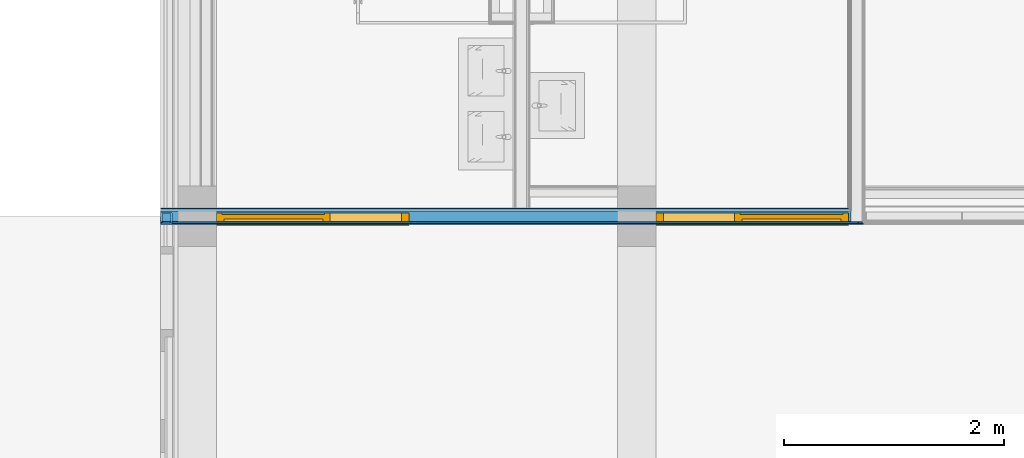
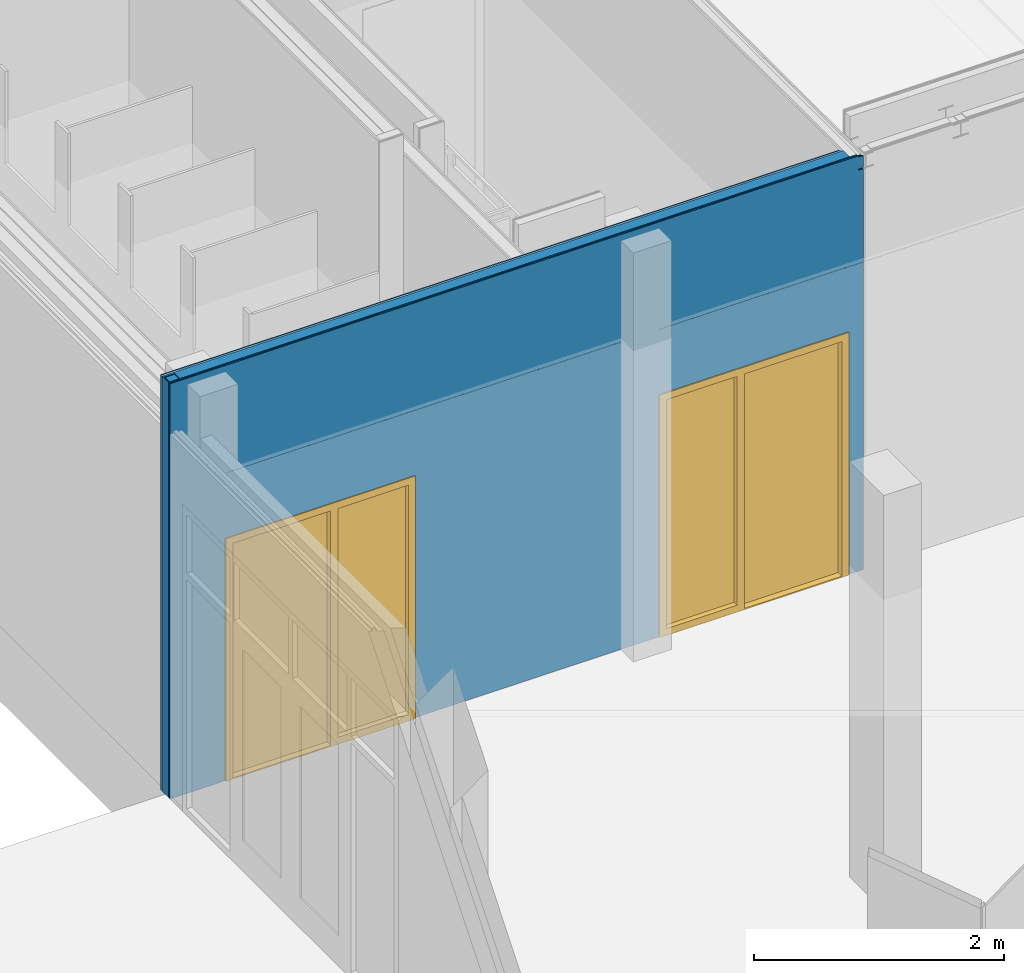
# One storey, part 39 of 54: 4 building element parts, 2 doors, 2 openings, 1 element without a shape of its own, plus 1 element that does not belong to this part.
"""IFC2X3 building model written with IfcOpenShell, lengths in millimetres."""

from ifc_helpers import new_model, entity, si_unit, converted_unit, derived_unit, money_unit, direction, frame, origin_with_axes, place, context, subcontext, project, spatial, open_shell, faceted_brep, surface_model, material, type_object, element, fill, aggregate, save


model = new_model("IFC2X3")

# Units and contexts
model_context = context("Model", 3, precision=0.01, world=origin_with_axes(), true_north=direction((0.0, 1.0)))
body_context = subcontext(model_context, "Body", "Model", "MODEL_VIEW")
ifc_project = project(units=[si_unit("LENGTHUNIT", "METRE", prefix="MILLI"), si_unit("AREAUNIT", "SQUARE_METRE"), si_unit("VOLUMEUNIT", "CUBIC_METRE"), converted_unit("PLANEANGLEUNIT", "DEGREE", entity("IfcPlaneAngleMeasure", 0.0174532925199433), si_unit("PLANEANGLEUNIT", "RADIAN"), dimensions=[0, 0, 0, 0, 0, 0, 0]), money_unit("EUR"), converted_unit("TIMEUNIT", "Year", entity("IfcTimeMeasure", 31557600.0), si_unit("TIMEUNIT", "SECOND"), dimensions=[0, 0, 1, 0, 0, 0, 0]), si_unit("MASSUNIT", "GRAM", prefix="KILO"), si_unit("THERMODYNAMICTEMPERATUREUNIT", "DEGREE_CELSIUS"), si_unit("LUMINOUSINTENSITYUNIT", "LUMEN"), si_unit("ENERGYUNIT", "JOULE", prefix="MEGA"), derived_unit("THERMALCONDUCTANCEUNIT", [(si_unit("POWERUNIT", "WATT"), 1), (si_unit("LENGTHUNIT", "METRE"), -1), (si_unit("THERMODYNAMICTEMPERATUREUNIT", "KELVIN"), -1)]), derived_unit("SPECIFICHEATCAPACITYUNIT", [(si_unit("ENERGYUNIT", "JOULE"), 1), (si_unit("MASSUNIT", "GRAM", prefix="KILO"), -1), (si_unit("THERMODYNAMICTEMPERATUREUNIT", "KELVIN"), -1)]), derived_unit("MASSDENSITYUNIT", [(si_unit("MASSUNIT", "GRAM", prefix="KILO"), 1), (si_unit("VOLUMEUNIT", "CUBIC_METRE"), -1)])], contexts=[model_context])

# Site, building, storey
site_placement = place(None, origin_with_axes())
site = spatial("IfcSite", under=ifc_project, at=site_placement, Name="<site naam>", CompositionType="ELEMENT")
building_placement = place(site_placement, origin_with_axes())
building = spatial("IfcBuilding", under=site, at=building_placement, Name="<Naam gebouw>", CompositionType="ELEMENT")
storey_placement = place(building_placement, frame((0.0, 0.0, 8500.0), z_axis=(0.0, 0.0, 1.0), x_axis=(1.0, 0.0, 0.0)))
storey = spatial("IfcBuildingStorey", under=building, at=storey_placement, Name="02 2e verdieping", CompositionType="ELEMENT", Elevation=8500.0)

# Door
door_style_1 = type_object("IfcDoorStyle", Name="D1 zl1-b 27", ConstructionType="NOTDEFINED", OperationType="SINGLE_SWING_RIGHT", ParameterTakesPrecedence=False, Sizeable=False)
wall_placement = place(storey_placement, frame((11665.00000000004, 12000.00000000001, 0.0), z_axis=(0.0, 0.0, 1.0), x_axis=(1.0, 0.0, 0.0)))
opening_1_placement = place(wall_placement, frame((5384.999999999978, 0.0, 0.0), z_axis=(0.0, 0.0, 1.0), x_axis=(1.0, 0.0, 0.0)))
door_1_placement = place(opening_1_placement, frame((-875.0, 0.0, 0.0), z_axis=(0.0, 0.0, 1.0), x_axis=(1.0, 0.0, 0.0)))
door_1 = element("IfcDoor", 1, at=door_1_placement, inside=storey, type_object=door_style_1, Name="22_BI-C-01 sp_305", ObjectType="DOOR", OverallHeight=2367.0, OverallWidth=1750.0, context=body_context, shape_type="SurfaceModel", body=[
    faceted_brep([(766.0000000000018, -10.99999999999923, 12.00000000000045), (783.0000000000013, -10.99999999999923, 12.00000000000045), (783.0000000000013, -85.00000000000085, 12.00000000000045), (1683.0, -85.00000000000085, 12.00000000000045), (1683.0, -10.99999999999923, 12.00000000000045), (1699.999999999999, -10.99999999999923, 12.00000000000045), (1699.999999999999, 28.99999999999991, 12.00000000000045), (766.0000000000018, 28.99999999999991, 12.00000000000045), (766.0000000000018, -10.99999999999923, 0.0), (783.0000000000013, -10.99999999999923, 0.0), (783.0000000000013, -85.00000000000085, 0.0), (1683.0, -85.00000000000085, 0.0), (1683.0, -10.99999999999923, 0.0), (1699.999999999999, -10.99999999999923, 0.0), (1699.999999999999, 28.99999999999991, 0.0), (766.0000000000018, 28.99999999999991, 0.0)], [[[0, 1, 2, 3, 4, 5, 6, 7]], [[1, 0, 8, 9]], [[10, 2, 1, 9]], [[2, 10, 11, 3]], [[3, 11, 12, 4]], [[5, 4, 12, 13]], [[13, 14, 6, 5]], [[15, 7, 6, 14]], [[8, 0, 7, 15]], [[9, 8, 15, 14, 13, 12, 11, 10]]]),
    faceted_brep([(0.0, 28.99999999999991, 0.0), (67.00000000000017, 28.99999999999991, 0.0), (67.00000000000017, -85.00000000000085, 0.0), (0.0, -85.00000000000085, 0.0), (0.0, 28.99999999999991, 2300.000000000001), (67.00000000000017, 28.99999999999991, 2300.000000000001), (67.00000000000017, 28.99999999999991, 67.00000000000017), (67.00000000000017, -85.00000000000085, 67.00000000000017), (67.00000000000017, -84.99999999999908, 2300.000000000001), (0.0, -84.99999999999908, 2300.000000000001)], [[[0, 1, 2, 3]], [[0, 4, 5, 6, 1]], [[1, 6, 7, 2]], [[3, 2, 7, 8, 9]], [[4, 0, 3, 9]], [[5, 4, 9, 8]], [[6, 5, 8, 7]]]),
    faceted_brep([(783.0000000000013, -25.9999999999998, 0.0), (783.0000000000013, -25.9999999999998, 2300.000000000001), (783.0000000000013, -84.99999999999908, 2300.000000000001), (783.0000000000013, -85.00000000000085, 0.0), (766.0000000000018, -25.9999999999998, 2300.000000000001), (766.0000000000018, -25.9999999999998, 0.0), (766.0000000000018, 28.99999999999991, 2300.000000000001), (716.0000000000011, 28.99999999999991, 2300.000000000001), (716.0000000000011, -84.99999999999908, 2300.000000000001), (716.0000000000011, -85.00000000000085, 0.0), (716.0000000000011, -85.00000000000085, 67.00000000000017), (716.0000000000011, 28.99999999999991, 0.0), (766.0000000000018, 28.99999999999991, 0.0), (716.0000000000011, 28.99999999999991, 67.00000000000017)], [[[0, 1, 2, 3]], [[4, 1, 0, 5]], [[4, 6, 7, 8, 2, 1]], [[9, 3, 2, 8, 10]], [[5, 0, 3, 9, 11, 12]], [[6, 4, 5, 12]], [[6, 12, 11, 13, 7]], [[13, 10, 8, 7]], [[11, 9, 10, 13]]]),
    faceted_brep([(67.00000000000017, 28.99999999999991, 67.00000000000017), (67.00000000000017, 28.99999999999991, 0.0), (67.00000000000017, -85.00000000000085, 0.0), (67.00000000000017, -85.00000000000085, 67.00000000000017), (716.0000000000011, 28.99999999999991, 67.00000000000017), (716.0000000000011, 28.99999999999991, 0.0), (716.0000000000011, -85.00000000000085, 0.0), (716.0000000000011, -85.00000000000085, 67.00000000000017)], [[[0, 1, 2, 3]], [[0, 4, 5, 1]], [[1, 5, 6, 2]], [[3, 2, 6, 7]], [[4, 0, 3, 7]], [[5, 4, 7, 6]]]),
    faceted_brep([(1699.999999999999, -25.9999999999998, 2300.000000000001), (1683.0, -25.9999999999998, 2300.000000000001), (1683.0, -84.99999999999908, 2300.000000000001), (1750.0, -84.99999999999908, 2300.000000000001), (1750.0, 28.99999999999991, 2300.000000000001), (1699.999999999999, 28.99999999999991, 2300.000000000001), (1699.999999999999, -25.9999999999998, 0.0), (1683.0, -25.9999999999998, 0.0), (1683.0, -85.00000000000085, 0.0), (1750.0, -85.00000000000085, 0.0), (1750.0, 28.99999999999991, 0.0), (1699.999999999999, 28.99999999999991, 0.0)], [[[0, 1, 2, 3, 4, 5]], [[1, 0, 6, 7]], [[1, 7, 8, 2]], [[3, 2, 8, 9]], [[4, 3, 9, 10]], [[11, 5, 4, 10]], [[0, 5, 11, 6]], [[6, 11, 10, 9, 8, 7]]]),
    faceted_brep([(766.0000000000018, 28.99999999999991, 2317.0), (766.0000000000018, 28.99999999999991, 2300.000000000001), (716.0000000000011, 28.99999999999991, 2300.000000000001), (67.00000000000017, 28.99999999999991, 2300.000000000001), (0.0, 28.99999999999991, 2300.000000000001), (0.0, 28.99999999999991, 2367.000000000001), (1750.0, 28.99999999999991, 2367.000000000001), (1750.0, 28.99999999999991, 2300.000000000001), (1699.999999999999, 28.99999999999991, 2300.000000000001), (1699.999999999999, 28.99999999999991, 2317.0), (766.0000000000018, -25.9999999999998, 2317.0), (766.0000000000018, -25.9999999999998, 2300.000000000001), (1683.0, -25.9999999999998, 2300.000000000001), (1683.0, -84.99999999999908, 2300.000000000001), (783.0000000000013, -84.99999999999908, 2300.000000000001), (716.0000000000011, -84.99999999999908, 2300.000000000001), (67.00000000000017, -84.99999999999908, 2300.000000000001), (0.0, -84.99999999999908, 2300.000000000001), (0.0, -84.99999999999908, 2367.000000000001), (1750.0, -84.99999999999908, 2367.000000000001), (1750.0, -84.99999999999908, 2300.000000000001), (1699.999999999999, -25.9999999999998, 2300.000000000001), (1699.999999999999, -25.9999999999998, 2317.0)], [[[0, 1, 2, 3, 4, 5, 6, 7, 8, 9]], [[1, 0, 10, 11]], [[11, 12, 13, 14, 15, 2, 1]], [[2, 15, 16, 3]], [[3, 16, 17, 4]], [[4, 17, 18, 5]], [[5, 18, 19, 6]], [[6, 19, 20, 7]], [[21, 8, 7, 20, 13, 12]], [[9, 8, 21, 22]], [[0, 9, 22, 10]], [[21, 12, 11, 10, 22]], [[13, 20, 19, 18, 17, 16, 15, 14]]]),
    faceted_brep([(1699.999999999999, 13.99999999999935, 12.00000000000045), (1699.999999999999, -25.9999999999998, 12.00000000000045), (766.0000000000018, -25.9999999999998, 12.00000000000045), (766.0000000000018, 13.99999999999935, 12.00000000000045), (1699.999999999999, 13.99999999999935, 2317.0), (1699.999999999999, -25.9999999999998, 2317.0), (766.0000000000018, -25.9999999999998, 2317.0), (766.0000000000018, 13.99999999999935, 2317.0)], [[[0, 1, 2, 3]], [[4, 5, 1, 0]], [[1, 5, 6, 2]], [[3, 2, 6, 7]], [[0, 3, 7, 4]], [[7, 6, 5, 4]]]),
    surface_model("IfcShellBasedSurfaceModel", [(67.00000000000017, -25.00000000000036, 67.00000000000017), (67.00000000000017, -25.00000000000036, 2300.000000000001), (716.0000000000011, -25.00000000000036, 2300.000000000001), (716.0000000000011, -25.00000000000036, 67.00000000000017)], [open_shell([[[0, 1, 2, 3]]])]),
    surface_model("IfcShellBasedSurfaceModel", [(67.00000000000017, -37.00000000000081, 67.00000000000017), (716.0000000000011, -37.00000000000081, 67.00000000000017), (716.0000000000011, -37.00000000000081, 2300.000000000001), (67.00000000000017, -37.00000000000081, 2300.000000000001)], [open_shell([[[0, 1, 2, 3]]])]),
])

door_style_2 = type_object("IfcDoorStyle", Name="D1 zl1-b 27", ConstructionType="NOTDEFINED", OperationType="SINGLE_SWING_LEFT", ParameterTakesPrecedence=False, Sizeable=False)
opening_2_placement = place(wall_placement, frame((1385.000000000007, 0.0, 0.0), z_axis=(0.0, 0.0, 1.0), x_axis=(1.0, 0.0, 0.0)))
door_2_placement = place(opening_2_placement, frame((-875.0, 0.0, 0.0), z_axis=(0.0, 0.0, 1.0), x_axis=(1.0, 0.0, 0.0)))
door_2 = element("IfcDoor", 2, at=door_2_placement, inside=storey, type_object=door_style_2, Name="22_BI-C-01_305", ObjectType="DOOR", OverallHeight=2367.0, OverallWidth=1750.0, context=body_context, shape_type="SurfaceModel", body=[
    faceted_brep([(984.0, -10.99999999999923, 12.00000000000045), (984.0, 28.99999999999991, 12.00000000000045), (50.00000000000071, 28.99999999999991, 12.00000000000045), (50.00000000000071, -10.99999999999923, 12.00000000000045), (67.00000000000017, -10.99999999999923, 12.00000000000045), (67.00000000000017, -85.00000000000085, 12.00000000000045), (967.0000000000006, -85.00000000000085, 12.00000000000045), (967.0000000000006, -10.99999999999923, 12.00000000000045), (984.0, -10.99999999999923, 0.0), (984.0, 28.99999999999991, 0.0), (50.00000000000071, 28.99999999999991, 0.0), (50.00000000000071, -10.99999999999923, 0.0), (67.00000000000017, -10.99999999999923, 0.0), (67.00000000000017, -85.00000000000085, 0.0), (967.0000000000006, -85.00000000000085, 0.0), (967.0000000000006, -10.99999999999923, 0.0)], [[[0, 1, 2, 3, 4, 5, 6, 7]], [[8, 9, 1, 0]], [[9, 10, 2, 1]], [[11, 3, 2, 10]], [[3, 11, 12, 4]], [[5, 4, 12, 13]], [[6, 5, 13, 14]], [[14, 15, 7, 6]], [[7, 15, 8, 0]], [[15, 14, 13, 12, 11, 10, 9, 8]]]),
    faceted_brep([(1750.0, 28.99999999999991, 0.0), (1750.0, -85.00000000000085, 0.0), (1683.0, -85.00000000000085, 0.0), (1683.0, 28.99999999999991, 0.0), (1750.0, 28.99999999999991, 2300.000000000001), (1750.0, -84.99999999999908, 2300.000000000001), (1683.0, -84.99999999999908, 2300.000000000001), (1683.0, -85.00000000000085, 67.00000000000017), (1683.0, 28.99999999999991, 67.00000000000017), (1683.0, 28.99999999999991, 2300.000000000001)], [[[0, 1, 2, 3]], [[4, 5, 1, 0]], [[1, 5, 6, 7, 2]], [[3, 2, 7, 8]], [[0, 3, 8, 9, 4]], [[9, 6, 5, 4]], [[8, 7, 6, 9]]]),
    faceted_brep([(967.0000000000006, -25.9999999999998, 0.0), (967.0000000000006, -85.00000000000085, 0.0), (967.0000000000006, -84.99999999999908, 2300.000000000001), (967.0000000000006, -25.9999999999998, 2300.000000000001), (984.0, -25.9999999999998, 0.0), (984.0, 28.99999999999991, 0.0), (1034.000000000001, 28.99999999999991, 0.0), (1034.000000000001, -85.00000000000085, 0.0), (1034.000000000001, -85.00000000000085, 67.00000000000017), (1034.000000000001, -84.99999999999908, 2300.000000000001), (984.0, -25.9999999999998, 2300.000000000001), (1034.000000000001, 28.99999999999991, 2300.000000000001), (984.0, 28.99999999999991, 2300.000000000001), (1034.000000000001, 28.99999999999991, 67.00000000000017)], [[[0, 1, 2, 3]], [[4, 5, 6, 7, 1, 0]], [[7, 8, 9, 2, 1]], [[10, 3, 2, 9, 11, 12]], [[10, 4, 0, 3]], [[12, 5, 4, 10]], [[12, 11, 13, 6, 5]], [[6, 13, 8, 7]], [[13, 11, 9, 8]]]),
    faceted_brep([(1683.0, 28.99999999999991, 67.00000000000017), (1683.0, -85.00000000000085, 67.00000000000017), (1683.0, -85.00000000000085, 0.0), (1683.0, 28.99999999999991, 0.0), (1034.000000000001, 28.99999999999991, 67.00000000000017), (1034.000000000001, -85.00000000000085, 67.00000000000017), (1034.000000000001, -85.00000000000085, 0.0), (1034.000000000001, 28.99999999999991, 0.0)], [[[0, 1, 2, 3]], [[4, 5, 1, 0]], [[1, 5, 6, 2]], [[3, 2, 6, 7]], [[0, 3, 7, 4]], [[7, 6, 5, 4]]]),
    faceted_brep([(50.00000000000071, -25.9999999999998, 2300.000000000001), (50.00000000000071, 28.99999999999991, 2300.000000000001), (0.0, 28.99999999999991, 2300.000000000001), (0.0, -84.99999999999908, 2300.000000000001), (67.00000000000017, -84.99999999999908, 2300.000000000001), (67.00000000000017, -25.9999999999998, 2300.000000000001), (50.00000000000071, -25.9999999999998, 0.0), (50.00000000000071, 28.99999999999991, 0.0), (0.0, 28.99999999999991, 0.0), (0.0, -85.00000000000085, 0.0), (67.00000000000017, -85.00000000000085, 0.0), (67.00000000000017, -25.9999999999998, 0.0)], [[[0, 1, 2, 3, 4, 5]], [[0, 6, 7, 1]], [[7, 8, 2, 1]], [[2, 8, 9, 3]], [[3, 9, 10, 4]], [[5, 4, 10, 11]], [[5, 11, 6, 0]], [[6, 11, 10, 9, 8, 7]]]),
    faceted_brep([(984.0, 28.99999999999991, 2317.0), (50.00000000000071, 28.99999999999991, 2317.0), (50.00000000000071, 28.99999999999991, 2300.000000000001), (0.0, 28.99999999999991, 2300.000000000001), (0.0, 28.99999999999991, 2367.000000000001), (1750.0, 28.99999999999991, 2367.000000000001), (1750.0, 28.99999999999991, 2300.000000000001), (1683.0, 28.99999999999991, 2300.000000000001), (1034.000000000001, 28.99999999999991, 2300.000000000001), (984.0, 28.99999999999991, 2300.000000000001), (984.0, -25.9999999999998, 2317.0), (50.00000000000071, -25.9999999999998, 2317.0), (50.00000000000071, -25.9999999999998, 2300.000000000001), (67.00000000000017, -25.9999999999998, 2300.000000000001), (67.00000000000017, -84.99999999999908, 2300.000000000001), (0.0, -84.99999999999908, 2300.000000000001), (0.0, -84.99999999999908, 2367.000000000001), (1750.0, -84.99999999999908, 2367.000000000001), (1750.0, -84.99999999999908, 2300.000000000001), (1683.0, -84.99999999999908, 2300.000000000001), (1034.000000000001, -84.99999999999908, 2300.000000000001), (984.0, -25.9999999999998, 2300.000000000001), (967.0000000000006, -84.99999999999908, 2300.000000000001)], [[[0, 1, 2, 3, 4, 5, 6, 7, 8, 9]], [[0, 10, 11, 1]], [[1, 11, 12, 2]], [[12, 13, 14, 15, 3, 2]], [[4, 3, 15, 16]], [[5, 4, 16, 17]], [[6, 5, 17, 18]], [[7, 6, 18, 19]], [[8, 7, 19, 20]], [[21, 9, 8, 20, 22, 14, 13]], [[9, 21, 10, 0]], [[12, 11, 10, 21, 13]], [[14, 22, 20, 19, 18, 17, 16, 15]]]),
    faceted_brep([(50.00000000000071, 13.99999999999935, 12.00000000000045), (984.0, 13.99999999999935, 12.00000000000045), (984.0, -25.9999999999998, 12.00000000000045), (50.00000000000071, -25.9999999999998, 12.00000000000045), (50.00000000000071, 13.99999999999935, 2317.0), (984.0, 13.99999999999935, 2317.0), (984.0, -25.9999999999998, 2317.0), (50.00000000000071, -25.9999999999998, 2317.0)], [[[0, 1, 2, 3]], [[0, 4, 5, 1]], [[1, 5, 6, 2]], [[3, 2, 6, 7]], [[4, 0, 3, 7]], [[5, 4, 7, 6]]]),
    surface_model("IfcShellBasedSurfaceModel", [(1683.0, -25.00000000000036, 67.00000000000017), (1033.999999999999, -25.00000000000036, 67.00000000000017), (1033.999999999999, -25.00000000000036, 2300.000000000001), (1683.0, -25.00000000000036, 2300.000000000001)], [open_shell([[[0, 1, 2, 3]]])]),
    surface_model("IfcShellBasedSurfaceModel", [(1683.0, -37.00000000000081, 67.00000000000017), (1683.0, -37.00000000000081, 2300.000000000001), (1033.999999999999, -37.00000000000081, 2300.000000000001), (1033.999999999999, -37.00000000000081, 67.00000000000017)], [open_shell([[[0, 1, 2, 3]]])]),
])

# Wall, opening
wall_type = type_object("IfcWallType", Name="MS-01 GF 150 ECO DGS/2.100.2.A 150", PredefinedType="NOTDEFINED")
wall = element("IfcWall", 3, at=wall_placement, inside=storey, type_object=wall_type, Name="22_Binnenwand_MS-01")
opening_1 = element("IfcOpeningElement", 4, at=opening_1_placement, cuts=wall, Name="22_BI-C-01 sp_305", context=body_context, shape_type="Brep", body=[
    faceted_brep([(875.0, 75.99999999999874, 2367.000000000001), (875.0, 75.99999999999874, 0.0), (-875.0, 75.99999999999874, 0.0), (-875.0, 75.99999999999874, 2367.000000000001), (875.0, -75.99999999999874, 2367.000000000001), (875.0, -75.99999999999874, 0.0), (-875.0, -75.99999999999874, 0.0), (-875.0, -75.99999999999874, 2367.000000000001)], [[[0, 1, 2, 3]], [[4, 5, 1, 0]], [[5, 6, 2, 1]], [[6, 7, 3, 2]], [[7, 4, 0, 3]], [[6, 5, 4, 7]]]),
])

fill(opening_1, door_1)

# Opening
opening_2 = element("IfcOpeningElement", 5, at=opening_2_placement, cuts=wall, Name="22_BI-C-01_305", context=body_context, shape_type="Brep", body=[
    faceted_brep([(875.0, 75.99999999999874, 2367.000000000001), (875.0, 75.99999999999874, 0.0), (-875.0, 75.99999999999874, 0.0), (-875.0, 75.99999999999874, 2367.000000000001), (875.0, -75.99999999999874, 2367.000000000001), (875.0, -75.99999999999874, 0.0), (-875.0, -75.99999999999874, 0.0), (-875.0, -75.99999999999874, 2367.000000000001)], [[[0, 1, 2, 3]], [[4, 5, 1, 0]], [[5, 6, 2, 1]], [[6, 7, 3, 2]], [[7, 4, 0, 3]], [[6, 5, 4, 7]]]),
])

fill(opening_2, door_2)

# Building element part
ifc_material_1 = material(Name="gipsplaat")
building_element_part_1_placement = place(wall_placement, origin_with_axes())
building_element_part_1 = element("IfcBuildingElementPart", 6, at=building_element_part_1_placement, material=ifc_material_1, Name="gipsplaat", context=body_context, shape_type="Brep", body=[
    faceted_brep([(6259.938324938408, 75.00000000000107, 3.000000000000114), (485.0000005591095, 75.00000000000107, 3.000000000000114), (485.0000005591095, 74.99999999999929, 0.0), (0.0, 74.99999999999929, 0.0), (0.0, 75.00000000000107, 4049.999999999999), (6260.100692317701, 75.00000000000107, 4049.999999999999), (6260.100692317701, 75.00000000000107, 0.0), (6259.938324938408, 75.00000000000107, 0.0), (485.0000005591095, 75.00000000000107, 2440.0), (485.0000005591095, 75.00000000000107, 2400.0), (2260.000061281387, 75.00000000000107, 2400.0), (2260.000061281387, 75.00000000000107, 2440.0), (4510.000008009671, 75.00004358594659, 2440.0), (4510.000008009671, 75.00004358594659, 2400.0), (4510.850310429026, 75.00004358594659, 2400.0), (6258.67741358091, 75.00000000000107, 2400.0), (6258.67741358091, 75.00000000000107, 2440.0), (4510.850310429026, 75.00004358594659, 2440.0), (485.0000005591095, 62.5, 3.000000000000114), (6259.938324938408, 62.5, 3.000000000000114), (485.0000005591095, 62.5, 0.0), (0.0, 62.5, 0.0), (0.0, 62.5, 4049.999999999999), (6260.100692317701, 62.5, 4049.999999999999), (6260.100692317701, 62.5, 0.0), (6259.938324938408, 62.5, 0.0), (485.0000005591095, 71.42151923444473, 2400.0), (485.0000005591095, 71.42151923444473, 2440.0), (2260.000061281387, 71.42151923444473, 2400.0), (2260.000061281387, 71.42151923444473, 2440.0), (4510.000008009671, 71.42151923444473, 2400.0), (4510.000008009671, 71.42151923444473, 2440.0), (6258.67741358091, 71.42151923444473, 2400.0), (6258.67741358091, 71.42151923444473, 2440.0)], [[[0, 1, 2, 3, 4, 5, 6, 7], [8, 9, 10, 11], [12, 13, 14, 15, 16, 17]], [[18, 1, 0, 19]], [[20, 2, 1, 18]], [[3, 2, 20, 21]], [[22, 4, 3, 21]], [[22, 23, 5, 4]], [[23, 24, 6, 5]], [[24, 25, 7, 6]], [[19, 0, 7, 25]], [[26, 9, 8, 27]], [[28, 10, 9, 26]], [[29, 11, 10, 28]], [[27, 8, 11, 29]], [[30, 13, 12, 31]], [[15, 14, 13, 30, 32]], [[33, 16, 15, 32]], [[16, 33, 31, 12, 17]], [[18, 19, 25, 24, 23, 22, 21, 20]], [[26, 27, 29, 28]], [[32, 30, 31, 33]]]),
])

building_element_part_2_placement = place(wall_placement, origin_with_axes())
building_element_part_2 = element("IfcBuildingElementPart", 7, at=building_element_part_2_placement, material=ifc_material_1, Name="gipsplaat", context=body_context, shape_type="Brep", body=[
    faceted_brep([(6259.938324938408, 62.5, 3.000000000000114), (485.0000005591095, 62.5, 3.000000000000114), (485.0000005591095, 62.5, 0.0), (0.0, 62.5, 0.0), (0.0, 62.5, 4049.999999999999), (6272.600692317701, 62.5, 4049.999999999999), (6272.600692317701, 62.5, 0.0), (6259.938324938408, 62.5, 0.0), (485.0000005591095, 50.00000000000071, 3.000000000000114), (6259.938324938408, 50.00000000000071, 3.000000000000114), (485.0000005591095, 50.00000000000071, 0.0), (0.0, 50.00000000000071, 0.0), (0.0, 50.00000000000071, 4049.999999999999), (6272.600692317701, 50.00000000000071, 4049.999999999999), (6272.600692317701, 50.00000000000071, 0.0), (6259.938324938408, 50.00000000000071, 0.0)], [[[0, 1, 2, 3, 4, 5, 6, 7]], [[8, 1, 0, 9]], [[10, 2, 1, 8]], [[3, 2, 10, 11]], [[12, 4, 3, 11]], [[12, 13, 5, 4]], [[13, 14, 6, 5]], [[14, 15, 7, 6]], [[9, 0, 7, 15]], [[8, 9, 15, 14, 13, 12, 11, 10]]]),
])

ifc_material_2 = material(Name="isolatie_steenwol LSW")
building_element_part_3_placement = place(wall_placement, origin_with_axes())
building_element_part_3 = element("IfcBuildingElementPart", 8, at=building_element_part_3_placement, material=ifc_material_2, Name="isolatie_steenwol LSW", context=body_context, shape_type="Brep", body=[
    faceted_brep([(96.99999992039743, 23.00302317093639, 4049.999999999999), (13.00000005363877, 23.00302317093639, 4049.999999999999), (13.00000005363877, -49.99999999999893, 4049.999999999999), (96.99999992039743, -49.99999999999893, 4049.999999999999), (13.00000005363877, 23.00302317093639, 0.0), (96.99999992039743, 23.00302317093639, 0.0), (13.00000005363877, -50.00000000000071, 0.0), (96.99999992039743, -50.00000000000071, 0.0)], [[[0, 1, 2, 3]], [[4, 1, 0, 5]], [[6, 2, 1, 4]], [[6, 7, 3, 2]], [[5, 0, 3, 7]], [[4, 5, 7, 6]]]),
    faceted_brep([(0.0, -49.99999999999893, 4049.999999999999), (4.999999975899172, -49.99999999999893, 4049.999999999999), (4.999999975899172, 31.00302324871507, 4049.999999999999), (104.9999999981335, 31.00302324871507, 4049.999999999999), (104.9999999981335, -49.99999999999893, 4049.999999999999), (6285.1006923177, -49.99999999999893, 4049.999999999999), (6285.1006923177, 50.00000000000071, 4049.999999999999), (0.0, 50.00000000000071, 4049.999999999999), (0.0, -50.00000000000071, 0.0), (4.999999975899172, -50.00000000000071, 0.0), (4.999999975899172, 31.00302324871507, 0.0), (104.9999999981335, 31.00302324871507, 0.0), (104.9999999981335, -50.00000000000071, 0.0), (485.0000005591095, -50.00000000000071, 0.0), (485.0000005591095, -49.99999999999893, 3.000000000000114), (6259.938324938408, -49.99999999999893, 3.000000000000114), (6259.938324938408, -49.99999999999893, 0.0), (6285.1006923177, -49.99999999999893, 0.0), (6285.1006923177, 50.00000000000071, 0.0), (6259.938324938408, 50.00000000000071, 0.0), (6259.938324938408, 50.00000000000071, 3.000000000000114), (485.0000005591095, 50.00000000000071, 3.000000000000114), (485.0000005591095, 50.00000000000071, 0.0), (0.0, 50.00000000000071, 0.0)], [[[0, 1, 2, 3, 4, 5, 6, 7]], [[8, 9, 1, 0]], [[10, 2, 1, 9]], [[11, 3, 2, 10]], [[12, 4, 3, 11]], [[5, 4, 12, 13, 14, 15, 16, 17]], [[6, 5, 17, 18]], [[19, 20, 21, 22, 23, 7, 6, 18]], [[8, 0, 7, 23]], [[11, 10, 9, 8, 23, 22, 13, 12]], [[14, 13, 22, 21]], [[15, 14, 21, 20]], [[16, 15, 20, 19]], [[18, 17, 16, 19]]]),
])

building_element_part_4_placement = place(wall_placement, origin_with_axes())
building_element_part_4 = element("IfcBuildingElementPart", 9, at=building_element_part_4_placement, material=ifc_material_1, Name="gipsplaat", context=body_context, shape_type="Brep", body=[
    faceted_brep([(13.00000005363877, -49.99999999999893, 4050.000000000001), (13.00000005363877, -61.0004195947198, 4050.000000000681), (96.99999992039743, -61.0004195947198, 4050.000000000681), (96.99999992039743, -49.99999999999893, 4050.00000000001), (13.00000005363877, -61.0004195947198, 0.0), (13.00000005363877, -50.00000000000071, 0.0), (96.99999992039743, -61.0004195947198, 0.0), (96.99999992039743, -50.00000000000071, 0.0)], [[[0, 1, 2, 3]], [[4, 1, 0, 5]], [[6, 2, 1, 4]], [[6, 7, 3, 2]], [[7, 5, 0, 3]], [[6, 4, 5, 7]]]),
    faceted_brep([(485.0000005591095, -50.00000000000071, 0.0), (104.9999999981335, -50.00000000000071, 0.0), (104.9999999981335, -49.99999999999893, 4050.00000000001), (6350.00000001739, -49.99999999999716, 4050.000000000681), (6350.000000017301, -49.99999999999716, 4037.999999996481), (6385.100692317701, -49.99999999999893, 4037.999999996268), (6385.100692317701, -49.99999999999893, 3922.000000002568), (6350.000000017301, -49.99999999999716, 3922.000000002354), (6350.00000001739, -49.99999999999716, 3909.999999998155), (6385.100692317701, -49.99999999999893, 3909.999999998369), (6385.100692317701, -49.99999999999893, 0.0), (6259.938324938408, -49.99999999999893, 0.0), (6259.938324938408, -49.99999999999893, 3.000000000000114), (485.0000005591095, -49.99999999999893, 3.000000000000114), (485.0000005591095, -62.5, 0.0), (104.9999999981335, -62.5, 0.0), (104.9999999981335, -62.5, 4050.00000000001), (6350.00000001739, -62.5, 4050.000000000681), (6350.000000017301, -62.5, 4037.999999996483), (6385.100692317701, -62.5, 4037.999999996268), (6385.100692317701, -62.5, 3922.000000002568), (6350.000000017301, -62.5, 3922.000000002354), (6350.00000001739, -62.5, 3909.999999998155), (6385.100692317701, -62.5, 3909.999999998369), (6385.100692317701, -62.5, 0.0), (6259.938324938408, -62.5, 0.0), (6259.938324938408, -62.5, 3.000000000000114), (485.0000005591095, -62.5, 3.000000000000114)], [[[0, 1, 2, 3, 4, 5, 6, 7, 8, 9, 10, 11, 12, 13]], [[14, 15, 1, 0]], [[15, 16, 2, 1]], [[3, 2, 16, 17]], [[17, 18, 4, 3]], [[4, 18, 19, 5]], [[20, 6, 5, 19]], [[20, 21, 7, 6]], [[21, 22, 8, 7]], [[8, 22, 23, 9]], [[24, 10, 9, 23]], [[11, 10, 24, 25]], [[11, 25, 26, 12]], [[12, 26, 27, 13]], [[13, 27, 14, 0]], [[17, 16, 15, 14, 27, 26, 25, 24, 23, 22, 21, 20, 19, 18]]]),
    faceted_brep([(4.999999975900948, -62.5, 4049.999999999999), (4.999999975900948, -49.99999999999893, 4049.999999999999), (0.0, -49.99999999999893, 4049.999999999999), (0.0, -62.5, 4049.999999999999), (4.999999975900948, -50.00000000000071, 0.0), (4.999999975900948, -62.5, 0.0), (0.0, -50.00000000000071, 0.0), (0.0, -62.5, 0.0)], [[[0, 1, 2, 3]], [[4, 1, 0, 5]], [[1, 4, 6, 2]], [[7, 3, 2, 6]], [[5, 0, 3, 7]], [[4, 5, 7, 6]]]),
])

building_element_part_5_placement = place(wall_placement, origin_with_axes())
building_element_part_5 = element("IfcBuildingElementPart", 10, at=building_element_part_5_placement, material=ifc_material_1, Name="gipsplaat", context=body_context, shape_type="Brep", body=[
    faceted_brep([(485.0000005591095, -62.5, 0.0), (104.9999999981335, -62.5, 0.0), (104.9999999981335, -62.5, 4050.00000000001), (6350.00000001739, -62.5, 4050.000000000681), (6350.000000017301, -62.5, 4037.999999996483), (6397.600692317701, -62.5, 4037.999999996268), (6397.600692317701, -62.5, 3922.000000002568), (6350.000000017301, -62.5, 3922.000000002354), (6350.00000001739, -62.5, 3909.999999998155), (6397.600692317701, -62.5, 3909.999999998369), (6397.600692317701, -62.5, 0.0), (6259.938324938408, -62.5, 0.0), (6259.938324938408, -62.5, 3.000000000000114), (485.0000005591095, -62.5, 3.000000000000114), (4.999999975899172, -69.00041967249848, 0.0), (104.9999999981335, -69.00041967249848, 0.0), (485.0000005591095, -74.99999999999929, 0.0), (0.0, -74.99999999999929, 0.0), (0.0, -62.5, 0.0), (4.999999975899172, -62.5, 0.0), (104.9999999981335, -69.00041967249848, 4050.000000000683), (4.999999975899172, -69.00041967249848, 4050.000000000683), (4.999999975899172, -62.5, 4049.999999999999), (0.0, -62.5, 4049.999999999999), (0.0, -74.99999999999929, 4049.999999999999), (6350.00000001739, -74.99999999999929, 4050.000000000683), (6350.000000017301, -74.99999999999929, 4037.999999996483), (6397.600692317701, -74.99999999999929, 4037.999999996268), (6397.600692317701, -74.99999999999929, 3922.000000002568), (6350.000000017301, -74.99999999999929, 3922.000000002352), (6350.00000001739, -74.99999999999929, 3909.999999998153), (6397.600692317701, -74.99999999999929, 3909.999999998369), (6397.600692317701, -74.99999999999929, 0.0), (6397.600692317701, -74.99999999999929, 3039.999999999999), (6397.600692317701, -72.9236087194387, 3039.999999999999), (6397.600692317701, -72.9236087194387, 3000.0), (6397.600692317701, -74.99999999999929, 3000.0), (6259.938324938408, -74.99999999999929, 0.0), (6259.938324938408, -74.99999999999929, 3.000000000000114), (485.0000005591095, -74.99999999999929, 3.000000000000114), (4510.000000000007, -74.99999999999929, 3000.0), (4510.000000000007, -74.99999999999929, 3039.999999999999), (510.0000000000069, -74.99999999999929, 3039.999999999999), (4160.000000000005, -74.99999999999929, 3039.999999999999), (4160.000000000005, -74.99999999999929, 3000.0), (510.0000000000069, -74.99999999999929, 3000.0), (4510.000000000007, -72.9236087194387, 3039.999999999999), (4510.000000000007, -72.9236087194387, 3000.0), (510.0000000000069, -72.9236087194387, 3039.999999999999), (4160.000000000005, -72.9236087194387, 3039.999999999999), (4160.000000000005, -72.9236087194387, 3000.0), (510.0000000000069, -72.9236087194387, 3000.0)], [[[0, 1, 2, 3, 4, 5, 6, 7, 8, 9, 10, 11, 12, 13]], [[14, 15, 1, 0, 16, 17, 18, 19]], [[15, 20, 2, 1]], [[20, 21, 22, 23, 24, 25, 3, 2]], [[25, 26, 4, 3]], [[4, 26, 27, 5]], [[28, 6, 5, 27]], [[28, 29, 7, 6]], [[29, 30, 8, 7]], [[8, 30, 31, 9]], [[32, 10, 9, 31, 33, 34, 35, 36]], [[11, 10, 32, 37]], [[11, 37, 38, 12]], [[12, 38, 39, 13]], [[13, 39, 16, 0]], [[14, 21, 20, 15]], [[28, 27, 26, 25, 24, 17, 16, 39, 38, 37, 32, 36, 40, 41, 33, 31, 30, 29], [42, 43, 44, 45]], [[18, 17, 24, 23]], [[23, 22, 19, 18]], [[14, 19, 22, 21]], [[33, 41, 46, 34]], [[34, 46, 47, 35]], [[35, 47, 40, 36]], [[40, 47, 46, 41]], [[42, 48, 49, 43]], [[43, 49, 50, 44]], [[44, 50, 51, 45]], [[45, 51, 48, 42]], [[48, 51, 50, 49]]]),
])

aggregate(wall, [building_element_part_1, building_element_part_2, building_element_part_3, building_element_part_4, building_element_part_5])

save(model, "model.ifc")
